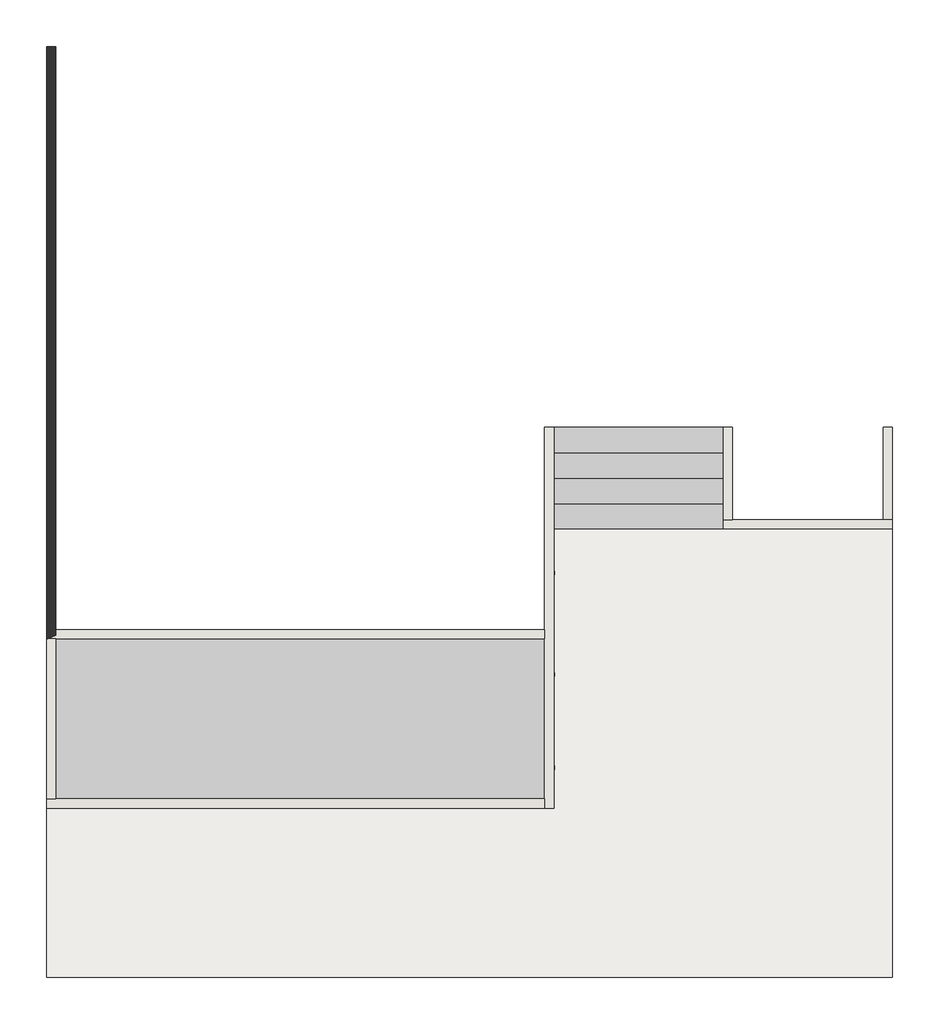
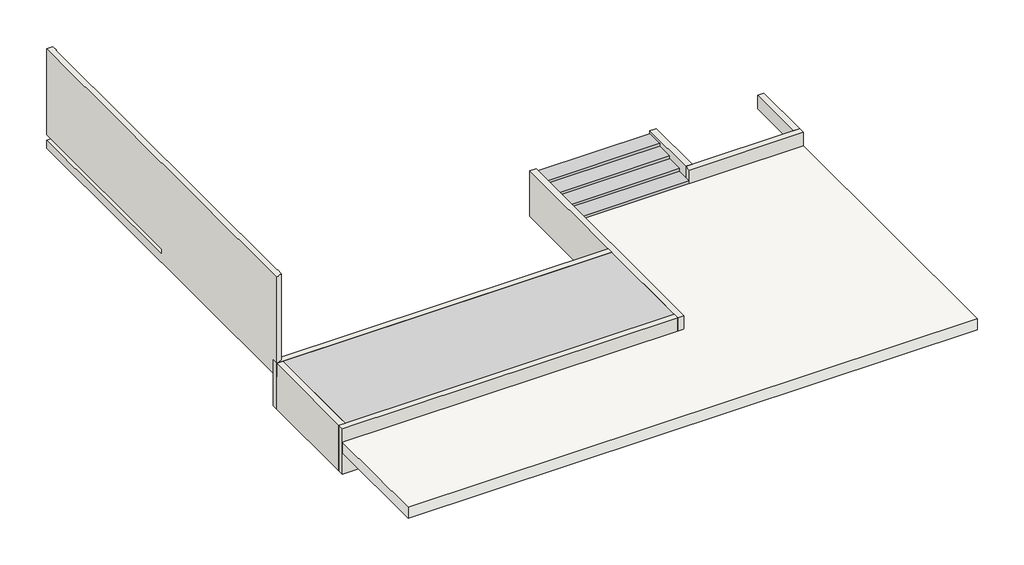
# One storey, incomplete: 8 light fixtures, 8 walls, 2 slabs, 1 proxy, 1 stair flight.
"""IFC4 building model written with IfcOpenShell, lengths in millimetres."""

from ifc_helpers import new_model, si_unit, frame, origin, origin_with_axes, place, context, project, spatial, polyline, outline, extrude, faceted_brep, transform, mapped, element, save
from components import generic_models_c5f9d44d, light_fixture_525804bd

model = new_model("IFC4")

# Units and contexts
model_context = context("Model", 3, world=origin())
ifc_project = project(units=[si_unit("LENGTHUNIT", "METRE", prefix="MILLI")], contexts=[model_context])

# Site, building, storey
site = spatial("IfcSite", under=ifc_project)
building = spatial("IfcBuilding", under=site)
storey = spatial("IfcBuildingStorey", under=building, Name="CALÇADA", Elevation=0.0)

# Proxy
placement = place(None, origin())
generic_models_shape = generic_models_c5f9d44d(model_context)
element("IfcBuildingElementProxy", 1, Name="Modelos genéricos 2 : Modelos genéricos 2", ObjectType="Modelos genéricos 2 : Modelos genéricos 2", at=placement, inside=storey, context=model_context, shape_type="MappedRepresentation", body=[
    mapped(generic_models_shape, transform((0.0, 0.0, 0.0), x_axis=(1.0, 0.0, 0.0), y_axis=(0.0, 1.0, 0.0), z_axis=(0.0, 0.0, 1.0))),
])

# Light fixtures
light_fixture_shape = light_fixture_525804bd(model_context)
element("IfcLightFixture", 2, ObjectType="Iluminação de caminho - Quadrada fixada : Iluminação de caminho - Quadrada fixada", at=placement, inside=storey, context=model_context, shape_type="MappedRepresentation", body=[
    mapped(light_fixture_shape, transform((348.4881645, -9153.761602, 0.0), x_axis=(0.0, -1.0, 0.0), y_axis=(1.0, 0.0, 0.0), z_axis=(0.0, 0.0, 1.0))),
])
element("IfcLightFixture", 3, ObjectType="Iluminação de caminho - Quadrada fixada : Iluminação de caminho - Quadrada fixada", at=placement, inside=storey, context=model_context, shape_type="MappedRepresentation", body=[
    mapped(light_fixture_shape, transform((348.4881645, -6951.4118273, 0.0), x_axis=(0.0, -1.0, 0.0), y_axis=(1.0, 0.0, 0.0), z_axis=(0.0, 0.0, 1.0))),
])
element("IfcLightFixture", 4, ObjectType="Iluminação de caminho - Quadrada fixada : Iluminação de caminho - Quadrada fixada", at=placement, inside=storey, context=model_context, shape_type="MappedRepresentation", body=[
    mapped(light_fixture_shape, transform((348.4881645, -4546.4118273, 0.0), x_axis=(0.0, -1.0, 0.0), y_axis=(1.0, 0.0, 0.0), z_axis=(0.0, 0.0, 1.0))),
])
element("IfcLightFixture", 5, ObjectType="Iluminação de caminho - Quadrada fixada : Iluminação de caminho - Quadrada fixada", at=placement, inside=storey, context=model_context, shape_type="MappedRepresentation", body=[
    mapped(light_fixture_shape, transform((-3379.0118355, -6123.9118273, -290.0), x_axis=(-1.0, 0.0, 0.0), y_axis=(0.0, -1.0, 0.0), z_axis=(0.0, 0.0, 1.0))),
])
element("IfcLightFixture", 6, ObjectType="Iluminação de caminho - Quadrada fixada : Iluminação de caminho - Quadrada fixada", at=placement, inside=storey, context=model_context, shape_type="MappedRepresentation", body=[
    mapped(light_fixture_shape, transform((-5464.0118355, -6123.9118273, -290.0), x_axis=(-1.0, 0.0, 0.0), y_axis=(0.0, -1.0, 0.0), z_axis=(0.0, 0.0, 1.0))),
])
element("IfcLightFixture", 7, ObjectType="Iluminação de caminho - Quadrada fixada : Iluminação de caminho - Quadrada fixada", at=placement, inside=storey, context=model_context, shape_type="MappedRepresentation", body=[
    mapped(light_fixture_shape, transform((-7549.0118355, -6123.9118273, -290.0), x_axis=(-1.0, 0.0, 0.0), y_axis=(0.0, -1.0, 0.0), z_axis=(0.0, 0.0, 1.0))),
])
element("IfcLightFixture", 8, ObjectType="Iluminação de caminho - Quadrada fixada : Iluminação de caminho - Quadrada fixada", at=placement, inside=storey, context=model_context, shape_type="MappedRepresentation", body=[
    mapped(light_fixture_shape, transform((-9634.0118355, -6123.9118273, -290.0), x_axis=(-1.0, 0.0, 0.0), y_axis=(0.0, -1.0, 0.0), z_axis=(0.0, 0.0, 1.0))),
])
element("IfcLightFixture", 9, ObjectType="Iluminação de caminho - Quadrada fixada : Iluminação de caminho - Quadrada fixada", at=placement, inside=storey, context=model_context, shape_type="MappedRepresentation", body=[
    mapped(light_fixture_shape, transform((-1379.0118355, -6123.9118273, -290.0), x_axis=(-1.0, 0.0, 0.0), y_axis=(0.0, -1.0, 0.0), z_axis=(0.0, 0.0, 1.0))),
])

# Slabs
element("IfcSlab", 10, ObjectType="Grama - Aterro - 40cm", at=placement, inside=storey, context=model_context, shape_type="SweptSolid", body=[
    extrude(outline(polyline([(8458.4881645, -3633.370942), (8458.4881645, -14233.9118273), (-11541.5118355, -14233.9118273), (-11541.5118355, -10233.9118273), (458.4881645, -10233.9118273), (458.4881645, -3633.370942), (8458.4881645, -3633.370942)])), frame((0.0, 0.0, -400.0), z_axis=(0.0, 0.0, 1.0), x_axis=(1.0, 0.0, 0.0)), (0.0, 0.0, 1.0), 400.0),
])
element("IfcSlab", 11, ObjectType="Piso Piscina", at=placement, inside=storey, context=model_context, shape_type="Brep", body=[
    faceted_brep([(-11321.5118355, -10013.9118273, -1200.0), (-11321.5118355, -6233.9118273, -1200.0), (-11321.5118355, -6232.5024148, -1200.0), (238.4881645, -6232.5024148, -1200.0), (238.4881645, -10013.9118273, -1200.0), (-11321.5118355, -10013.9118273, -1000.0), (238.4881645, -10013.9118273, -1000.0), (238.4881645, -6232.5024148, -1000.0), (-11321.5118355, -6232.5024148, -1000.0)], [[[0, 1, 2, 3, 4]], [[5, 6, 7, 8]], [[2, 1, 0, 5, 8]], [[3, 2, 8, 7]], [[4, 3, 7, 6]], [[0, 4, 6, 5]]]),
])

# Stair flight
element("IfcStairFlight", 12, ObjectType="Profundidade de 150mm", at=placement, inside=storey, context=model_context, shape_type="Brep", body=[
    faceted_brep([(458.4881645, -3033.370942, 100.0), (458.4881645, -3633.370942, 100.0), (4458.4881645, -3633.370942, 100.0), (4458.4881645, -3033.370942, 100.0), (458.4881645, -3033.370942, 0.0), (458.4881645, -3633.370942, 0.0), (4458.4881645, -3633.370942, 0.0), (4458.4881645, -3033.370942, 0.0), (458.4881645, -2433.370942, 200.0), (458.4881645, -3033.370942, 200.0), (4458.4881645, -3033.370942, 200.0), (4458.4881645, -2433.370942, 200.0), (458.4881645, -2433.370942, 47.9309367), (458.4881645, -2720.9565625, 0.0), (4458.4881645, -2720.9565625, 0.0), (4458.4881645, -2433.370942, 47.9309367), (458.4881645, -1833.370942, 300.0), (458.4881645, -2433.370942, 300.0), (4458.4881645, -2433.370942, 300.0), (4458.4881645, -1833.370942, 300.0), (458.4881645, -1833.370942, 147.9309367), (4458.4881645, -1833.370942, 147.9309367), (458.4881645, -1233.370942, 400.0), (458.4881645, -1833.370942, 400.0), (4458.4881645, -1833.370942, 400.0), (4458.4881645, -1233.370942, 400.0), (458.4881645, -1233.370942, 247.9309367), (4458.4881645, -1233.370942, 247.9309367)], [[[0, 1, 2, 3]], [[1, 0, 4, 5]], [[2, 1, 5, 6]], [[3, 2, 6, 7]], [[8, 9, 10, 11]], [[4, 0, 9, 8, 12, 13]], [[0, 3, 10, 9]], [[3, 7, 14, 15, 11, 10]], [[16, 17, 18, 19]], [[17, 16, 20, 12, 8]], [[8, 11, 18, 17]], [[19, 18, 11, 15, 21]], [[22, 23, 24, 25]], [[23, 22, 26, 20, 16]], [[16, 19, 24, 23]], [[25, 24, 19, 21, 27]], [[22, 25, 27, 26]], [[5, 4, 13, 14, 7, 6]], [[14, 13, 12, 20, 26, 27, 21, 15]]]),
])

# Walls
element("IfcWall", 13, ObjectType="Parede Concreto - 22cm", at=placement, inside=storey, context=model_context, shape_type="Brep", body=[
    faceted_brep([(238.4881645, -1233.370942, -1200.0), (238.4881645, -6013.9118273, -1200.0), (238.4881645, -6233.9118273, -1200.0), (238.4881645, -10013.9118273, -1200.0), (238.4881645, -10233.9118273, -1200.0), (238.4881645, -10233.9118273, 500.0), (238.4881645, -10013.9118273, 500.0), (238.4881645, -6233.9118273, 500.0), (238.4881645, -6013.9118273, 500.0), (238.4881645, -1233.370942, 500.0), (458.4881645, -1233.370942, -1200.0), (458.4881645, -1233.370942, 500.0), (458.4881645, -10233.9118273, 500.0), (458.4881645, -10233.9118273, -1200.0), (458.4881645, -9313.261602, 325.0), (458.4881645, -9313.261602, 394.0), (458.4881645, -9244.261602, 394.0), (458.4881645, -9244.261602, 325.0), (458.4881645, -7110.9118273, 325.0), (458.4881645, -7110.9118273, 394.0), (458.4881645, -7041.9118273, 394.0), (458.4881645, -7041.9118273, 325.0), (458.4881645, -4705.9118273, 325.0), (458.4881645, -4705.9118273, 394.0), (458.4881645, -4636.9118273, 394.0), (458.4881645, -4636.9118273, 325.0), (383.9466885, -9313.261602, 394.0), (383.9466885, -9313.261602, 325.0), (383.9466885, -9244.261602, 394.0), (383.9466885, -9244.261602, 325.0), (383.9466885, -7110.9118273, 394.0), (383.9466885, -7110.9118273, 325.0), (383.9466885, -7041.9118273, 394.0), (383.9466885, -7041.9118273, 325.0), (383.9466885, -4705.9118273, 394.0), (383.9466885, -4705.9118273, 325.0), (383.9466885, -4636.9118273, 394.0), (383.9466885, -4636.9118273, 325.0)], [[[0, 1, 2, 3, 4, 5, 6, 7, 8, 9]], [[10, 11, 12, 13], [14, 15, 16, 17], [18, 19, 20, 21], [22, 23, 24, 25]], [[4, 3, 2, 1, 0, 10, 13]], [[9, 8, 7, 6, 5, 12, 11]], [[0, 9, 11, 10]], [[26, 15, 14, 27]], [[28, 29, 17, 16]], [[26, 27, 29, 28]], [[27, 14, 17, 29]], [[15, 26, 28, 16]], [[30, 19, 18, 31]], [[32, 33, 21, 20]], [[30, 31, 33, 32]], [[31, 18, 21, 33]], [[19, 30, 32, 20]], [[34, 23, 22, 35]], [[36, 37, 25, 24]], [[34, 35, 37, 36]], [[35, 22, 25, 37]], [[23, 34, 36, 24]], [[5, 4, 13, 12]]]),
])
element("IfcWall", 14, ObjectType="Parede Concreto - 22cm", at=placement, inside=storey, context=model_context, shape_type="Brep", body=[
    faceted_brep([(238.4881645, -6013.9118273, -1200.0), (-11541.5118355, -6013.9118273, -1200.0), (-11541.5118355, -6013.9118273, 500.0), (238.4881645, -6013.9118273, 500.0), (238.4881645, -6233.9118273, -1200.0), (238.4881645, -6233.9118273, 500.0), (-11321.5118355, -6233.9118273, 500.0), (-11541.5118355, -6233.9118273, 500.0), (-11541.5118355, -6233.9118273, -1200.0), (-11321.5118355, -6233.9118273, -1200.0), (-3538.5118355, -6233.9118273, 35.0), (-3538.5118355, -6233.9118273, 104.0), (-3469.5118355, -6233.9118273, 104.0), (-3469.5118355, -6233.9118273, 35.0), (-5623.5118355, -6233.9118273, 35.0), (-5623.5118355, -6233.9118273, 104.0), (-5554.5118355, -6233.9118273, 104.0), (-5554.5118355, -6233.9118273, 35.0), (-7708.5118355, -6233.9118273, 35.0), (-7708.5118355, -6233.9118273, 104.0), (-7639.5118355, -6233.9118273, 104.0), (-7639.5118355, -6233.9118273, 35.0), (-9793.5118355, -6233.9118273, 35.0), (-9793.5118355, -6233.9118273, 104.0), (-9724.5118355, -6233.9118273, 104.0), (-9724.5118355, -6233.9118273, 35.0), (-1538.5118355, -6233.9118273, 35.0), (-1538.5118355, -6233.9118273, 104.0), (-1469.5118355, -6233.9118273, 104.0), (-1469.5118355, -6233.9118273, 35.0), (-3538.5118355, -6159.3703513, 104.0), (-3538.5118355, -6159.3703513, 35.0), (-3469.5118355, -6159.3703513, 104.0), (-3469.5118355, -6159.3703513, 35.0), (-5623.5118355, -6159.3703513, 104.0), (-5623.5118355, -6159.3703513, 35.0), (-5554.5118355, -6159.3703513, 104.0), (-5554.5118355, -6159.3703513, 35.0), (-7708.5118355, -6159.3703513, 104.0), (-7708.5118355, -6159.3703513, 35.0), (-7639.5118355, -6159.3703513, 104.0), (-7639.5118355, -6159.3703513, 35.0), (-9793.5118355, -6159.3703513, 104.0), (-9793.5118355, -6159.3703513, 35.0), (-9724.5118355, -6159.3703513, 104.0), (-9724.5118355, -6159.3703513, 35.0), (-1538.5118355, -6159.3703513, 104.0), (-1538.5118355, -6159.3703513, 35.0), (-1469.5118355, -6159.3703513, 104.0), (-1469.5118355, -6159.3703513, 35.0)], [[[0, 1, 2, 3]], [[4, 5, 6, 7, 8, 9], [10, 11, 12, 13], [14, 15, 16, 17], [18, 19, 20, 21], [22, 23, 24, 25], [26, 27, 28, 29]], [[1, 0, 4, 9, 8]], [[3, 2, 7, 6, 5]], [[0, 3, 5, 4]], [[30, 11, 10, 31]], [[32, 33, 13, 12]], [[30, 31, 33, 32]], [[31, 10, 13, 33]], [[11, 30, 32, 12]], [[34, 15, 14, 35]], [[36, 37, 17, 16]], [[34, 35, 37, 36]], [[35, 14, 17, 37]], [[15, 34, 36, 16]], [[38, 19, 18, 39]], [[40, 41, 21, 20]], [[38, 39, 41, 40]], [[39, 18, 21, 41]], [[19, 38, 40, 20]], [[42, 23, 22, 43]], [[44, 45, 25, 24]], [[42, 43, 45, 44]], [[43, 22, 25, 45]], [[23, 42, 44, 24]], [[46, 27, 26, 47]], [[48, 49, 29, 28]], [[46, 47, 49, 48]], [[47, 26, 29, 49]], [[27, 46, 48, 28]], [[2, 1, 8, 7]]]),
])
element("IfcWall", 15, ObjectType="Parede Concreto - 22cm", at=placement, inside=storey, context=model_context, shape_type="Brep", body=[
    faceted_brep([(238.4881645, -10013.9118273, -1200.0), (-11321.5118355, -10013.9118273, -1200.0), (-11541.5118355, -10013.9118273, -1200.0), (-11541.5118355, -10013.9118273, 500.0), (-11321.5118355, -10013.9118273, 500.0), (238.4881645, -10013.9118273, 500.0), (238.4881645, -10233.9118273, -1200.0), (238.4881645, -10233.9118273, 500.0), (-11541.5118355, -10233.9118273, 500.0), (-11541.5118355, -10233.9118273, -1200.0)], [[[0, 1, 2, 3, 4, 5]], [[6, 7, 8, 9]], [[2, 1, 0, 6, 9]], [[5, 4, 3, 8, 7]], [[0, 5, 7, 6]], [[3, 2, 9, 8]]]),
])
element("IfcWall", 16, ObjectType="Parede Concreto - 22cm", at=placement, inside=storey, context=model_context, shape_type="Brep", body=[
    faceted_brep([(-11321.5118355, -10013.9118273, -1200.0), (-11321.5118355, -6233.9118273, -1200.0), (-11321.5118355, -6233.9118273, 500.0), (-11321.5118355, -10013.9118273, 500.0), (-11321.5118355, -10013.9118273, -1000.0), (-11541.5118355, -10013.9118273, -1200.0), (-11541.5118355, -10013.9118273, 500.0), (-11541.5118355, -6233.9118273, 500.0), (-11541.5118355, -6233.9118273, -1200.0)], [[[0, 1, 2, 3, 4]], [[5, 6, 7, 8]], [[1, 0, 5, 8]], [[3, 2, 7, 6]], [[0, 4, 3, 6, 5]], [[2, 1, 8, 7]]]),
])
element("IfcWall", 17, ObjectType="Parede Externa - 22cm", at=placement, inside=storey, context=model_context, shape_type="Brep", body=[
    faceted_brep([(-11541.5118355, 7766.0881727, 0.0), (-11541.5118355, -6241.261602, 0.0), (-11541.5118355, -6241.261602, 3700.0), (-11541.5118355, 7766.0881727, 3700.0), (-11541.5118355, 7766.0881727, 500.0), (-11541.5118355, 766.0881727, 500.0), (-11541.5118355, 766.0881727, 300.0), (-11541.5118355, 7766.0881727, 300.0), (-11321.5118355, -6144.9105426, 0.0), (-11321.5118355, 7766.0881727, 0.0), (-11321.5118355, 7766.0881727, 300.0), (-11321.5118355, 766.0881727, 300.0), (-11321.5118355, 766.0881727, 500.0), (-11321.5118355, 7546.0881727, 500.0), (-11321.5118355, 7766.0881727, 500.0), (-11321.5118355, 7766.0881727, 3700.0), (-11321.5118355, 7556.0881727, 3700.0), (-11321.5118355, 7556.0881727, 3500.0), (-11321.5118355, 7546.0881727, 3500.0), (-11321.5118355, -5915.6535896, 3500.0), (-11321.5118355, -5915.6535896, 3700.0), (-11321.5118355, -6144.9105426, 3700.0), (-11321.5118355, -6144.9105426, 3500.0), (-11331.5118355, -5920.0331832, 3700.0), (-11331.5118355, 7556.0881727, 3700.0), (-11331.5118355, 7556.0881727, 3500.0), (-11331.5118355, -5920.0331832, 3500.0)], [[[0, 1, 2, 3, 4, 5, 6, 7]], [[8, 9, 10, 11, 12, 13, 14, 15, 16, 17, 18, 19, 20, 21, 22]], [[1, 0, 9, 8]], [[3, 2, 21, 20, 23, 24, 16, 15]], [[9, 0, 7, 10]], [[3, 15, 14, 4]], [[2, 1, 8, 22, 21]], [[6, 11, 10, 7]], [[12, 5, 4, 14, 13]], [[11, 6, 5, 12]], [[25, 26, 19, 18, 17]], [[26, 25, 24, 23]], [[26, 23, 20, 19]], [[24, 25, 17, 16]]]),
])
element("IfcWall", 18, ObjectType="Parede Externa - 22cm", at=placement, inside=storey, context=model_context, shape_type="Brep", body=[
    faceted_brep([(4458.4881645, -3633.370942, 0.0), (8458.4881645, -3633.370942, 0.0), (8458.4881645, -3633.370942, 500.0), (4458.4881645, -3633.370942, 500.0), (4458.4881645, -3413.370942, 0.0), (4458.4881645, -3413.370942, 500.0), (4678.4881645, -3413.370942, 500.0), (8238.4881645, -3413.370942, 500.0), (8458.4881645, -3413.370942, 500.0), (8458.4881645, -3413.370942, 0.0), (8238.4881645, -3413.370942, 0.0), (4678.4881645, -3413.370942, 0.0)], [[[0, 1, 2, 3]], [[4, 5, 6, 7, 8, 9, 10, 11]], [[1, 0, 4, 11, 10, 9]], [[3, 2, 8, 7, 6, 5]], [[2, 1, 9, 8]], [[0, 3, 5, 4]]]),
])
element("IfcWall", 19, ObjectType="Parede Externa - 22cm", at=placement, inside=storey, context=model_context, shape_type="SweptSolid", body=[
    extrude(outline(polyline([(8458.4881645, -1233.370942), (8458.4881645, -3413.370942), (8238.4881645, -3413.370942), (8238.4881645, -1233.370942), (8458.4881645, -1233.370942)])), origin_with_axes(), (0.0, 0.0, 1.0), 500.0),
])
element("IfcWall", 20, ObjectType="Parede Externa - 22cm", at=placement, inside=storey, context=model_context, shape_type="SweptSolid", body=[
    extrude(outline(polyline([(4678.4881645, -1233.370942), (4678.4881645, -3413.370942), (4458.4881645, -3413.370942), (4458.4881645, -1233.370942), (4678.4881645, -1233.370942)])), origin_with_axes(), (0.0, 0.0, 1.0), 500.0),
])

save(model, "model.ifc")
